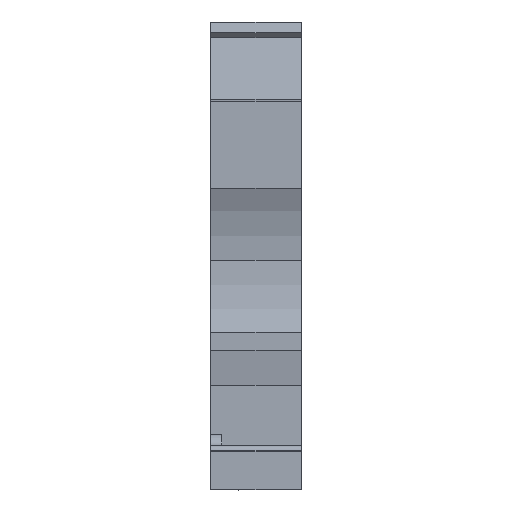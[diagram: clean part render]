
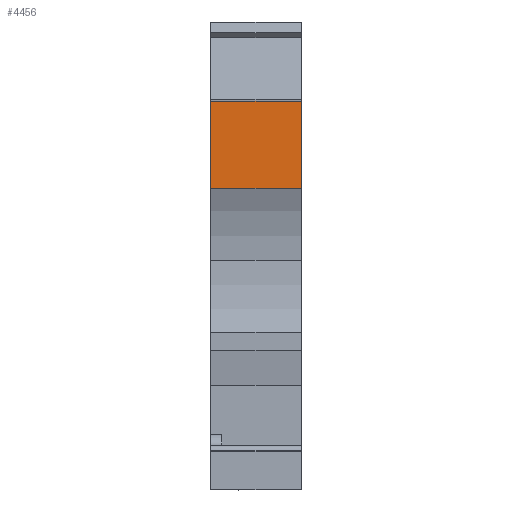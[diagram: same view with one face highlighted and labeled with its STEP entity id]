
A CAD part, front view. The second image highlights one B-rep face of the part: STEP entity #4456.
In plain terms, the highlighted planar face has unit normal (0, -1, 0).
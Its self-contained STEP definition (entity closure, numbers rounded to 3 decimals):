
#213=CARTESIAN_POINT('',(0.,0.,27.2));
#214=VERTEX_POINT('',#213);
#222=CARTESIAN_POINT('',(0.,0.,35.05));
#223=VERTEX_POINT('',#222);
#224=CARTESIAN_POINT('',(-0.,0.,35.05));
#225=DIRECTION('',(-0.,0.,-1.));
#226=VECTOR('',#225,7.85);
#227=LINE('',#224,#226);
#228=EDGE_CURVE('',#223,#214,#227,.T.);
#1932=CARTESIAN_POINT('',(8.15,0.,35.05));
#1933=VERTEX_POINT('',#1932);
#1940=CARTESIAN_POINT('',(8.15,0.,27.2));
#1941=VERTEX_POINT('',#1940);
#1942=CARTESIAN_POINT('',(8.15,0.,35.05));
#1943=DIRECTION('',(-0.,0.,-1.));
#1944=VECTOR('',#1943,7.85);
#1945=LINE('',#1942,#1944);
#1946=EDGE_CURVE('',#1933,#1941,#1945,.T.);
#4214=CARTESIAN_POINT('',(0.,0.,35.05));
#4215=DIRECTION('',(1.,-0.,-0.));
#4216=VECTOR('',#4215,8.15);
#4217=LINE('',#4214,#4216);
#4218=EDGE_CURVE('',#223,#1933,#4217,.T.);
#4440=CARTESIAN_POINT('',(8.15,0.,25.161));
#4441=DIRECTION('',(0.,-1.,-0.));
#4442=DIRECTION('',(0.,-0.,1.));
#4443=AXIS2_PLACEMENT_3D('',#4440,#4441,#4442);
#4444=PLANE('',#4443);
#4445=ORIENTED_EDGE('',*,*,#228,.T.);
#4446=CARTESIAN_POINT('',(0.,0.,27.2));
#4447=DIRECTION('',(1.,-0.,-0.));
#4448=VECTOR('',#4447,8.15);
#4449=LINE('',#4446,#4448);
#4450=EDGE_CURVE('',#214,#1941,#4449,.T.);
#4451=ORIENTED_EDGE('',*,*,#4450,.T.);
#4452=ORIENTED_EDGE('',*,*,#1946,.F.);
#4453=ORIENTED_EDGE('',*,*,#4218,.F.);
#4454=EDGE_LOOP('',(#4445,#4451,#4452,#4453));
#4455=FACE_BOUND('',#4454,.T.);
#4456=ADVANCED_FACE('',(#4455),#4444,.T.);
